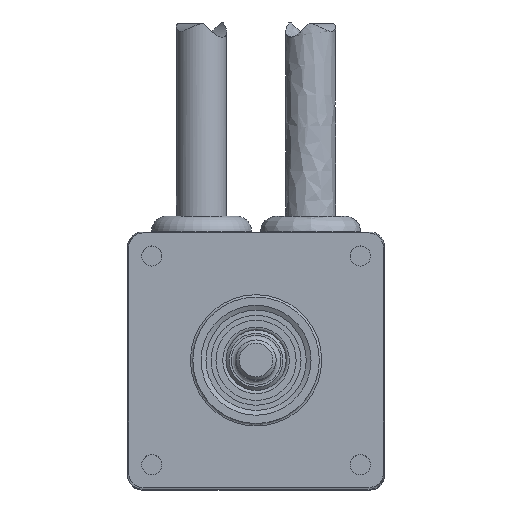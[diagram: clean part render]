
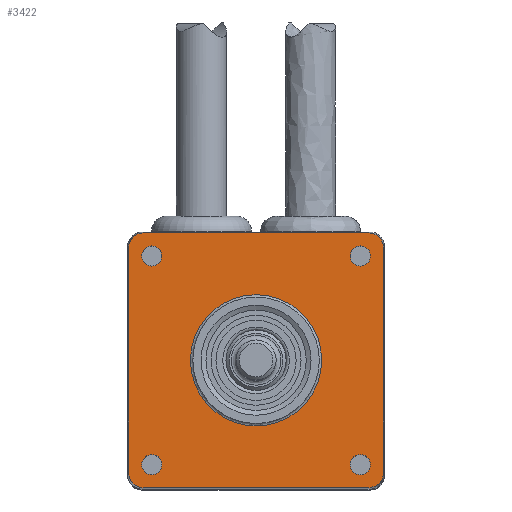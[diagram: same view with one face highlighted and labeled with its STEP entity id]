
A CAD part, top view. The second image highlights one B-rep face of the part: STEP entity #3422.
In plain terms, the highlighted planar face has unit normal (0, 0, 1).
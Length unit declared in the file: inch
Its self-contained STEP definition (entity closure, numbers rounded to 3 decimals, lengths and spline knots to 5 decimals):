
#3164=CARTESIAN_POINT('',(-0.5875,-0.65,0.37));
#3165=VERTEX_POINT('',#3164);
#3166=CARTESIAN_POINT('',(-0.65,-0.65,0.37));
#3167=DIRECTION('',(0.0,0.0,-1.0));
#3168=DIRECTION('',(-1.0,0.0,0.0));
#3169=AXIS2_PLACEMENT_3D('',#3166,#3167,#3168);
#3170=CIRCLE('',#3169,0.0625);
#3171=EDGE_CURVE('',#3165,#3165,#3170,.T.);
#3205=CARTESIAN_POINT('',(0.7125,0.65,0.37));
#3206=VERTEX_POINT('',#3205);
#3207=CARTESIAN_POINT('',(0.65,0.65,0.37));
#3208=DIRECTION('',(0.0,0.0,-1.0));
#3209=DIRECTION('',(-1.0,0.0,0.0));
#3210=AXIS2_PLACEMENT_3D('',#3207,#3208,#3209);
#3211=CIRCLE('',#3210,0.0625);
#3212=EDGE_CURVE('',#3206,#3206,#3211,.T.);
#3246=CARTESIAN_POINT('',(0.7125,-0.65,0.37));
#3247=VERTEX_POINT('',#3246);
#3248=CARTESIAN_POINT('',(0.65,-0.65,0.37));
#3249=DIRECTION('',(0.0,0.0,-1.0));
#3250=DIRECTION('',(-1.0,0.0,0.0));
#3251=AXIS2_PLACEMENT_3D('',#3248,#3249,#3250);
#3252=CIRCLE('',#3251,0.0625);
#3253=EDGE_CURVE('',#3247,#3247,#3252,.T.);
#3287=CARTESIAN_POINT('',(-0.5875,0.65,0.37));
#3288=VERTEX_POINT('',#3287);
#3289=CARTESIAN_POINT('',(-0.65,0.65,0.37));
#3290=DIRECTION('',(0.0,0.0,-1.0));
#3291=DIRECTION('',(-1.0,0.0,0.0));
#3292=AXIS2_PLACEMENT_3D('',#3289,#3290,#3291);
#3293=CIRCLE('',#3292,0.0625);
#3294=EDGE_CURVE('',#3288,#3288,#3293,.T.);
#3307=CARTESIAN_POINT('',(-0.70356,-0.79354,0.37));
#3308=VERTEX_POINT('',#3307);
#3309=CARTESIAN_POINT('',(-0.79354,-0.70356,0.37));
#3310=VERTEX_POINT('',#3309);
#3311=CARTESIAN_POINT('',(-0.70353,-0.70353,0.37));
#3312=DIRECTION('',(0.0,0.0,-1.));
#3313=DIRECTION('',(-0.707,-0.707,0.0));
#3314=AXIS2_PLACEMENT_3D('',#3311,#3312,#3313);
#3315=ELLIPSE('',#3314,0.09003,0.09);
#3316=EDGE_CURVE('',#3308,#3310,#3315,.T.);
#3334=CARTESIAN_POINT('',(0.,0.0,0.37));
#3335=DIRECTION('',(0.0,0.0,1.0));
#3336=DIRECTION('',(1.0,0.0,0.0));
#3337=AXIS2_PLACEMENT_3D('',#3334,#3335,#3336);
#3338=PLANE('',#3337);
#3339=ORIENTED_EDGE('',*,*,#3316,.F.);
#3340=CARTESIAN_POINT('',(0.70356,-0.79354,0.37));
#3341=VERTEX_POINT('',#3340);
#3342=CARTESIAN_POINT('',(0.70356,-0.79354,0.37));
#3343=DIRECTION('',(-1.0,0.0,0.0));
#3344=VECTOR('',#3343,1.40711);
#3345=LINE('',#3342,#3344);
#3346=EDGE_CURVE('',#3341,#3308,#3345,.T.);
#3347=ORIENTED_EDGE('',*,*,#3346,.F.);
#3348=CARTESIAN_POINT('',(0.79354,-0.70356,0.37));
#3349=VERTEX_POINT('',#3348);
#3350=CARTESIAN_POINT('',(0.70353,-0.70353,0.37));
#3351=DIRECTION('',(0.0,0.0,-1.));
#3352=DIRECTION('',(0.707,-0.707,0.0));
#3353=AXIS2_PLACEMENT_3D('',#3350,#3351,#3352);
#3354=ELLIPSE('',#3353,0.09003,0.09);
#3355=EDGE_CURVE('',#3349,#3341,#3354,.T.);
#3356=ORIENTED_EDGE('',*,*,#3355,.F.);
#3357=CARTESIAN_POINT('',(0.79354,0.70356,0.37));
#3358=VERTEX_POINT('',#3357);
#3359=CARTESIAN_POINT('',(0.79354,0.70356,0.37));
#3360=DIRECTION('',(0.0,-1.0,0.0));
#3361=VECTOR('',#3360,1.40711);
#3362=LINE('',#3359,#3361);
#3363=EDGE_CURVE('',#3358,#3349,#3362,.T.);
#3364=ORIENTED_EDGE('',*,*,#3363,.F.);
#3365=CARTESIAN_POINT('',(0.70356,0.79354,0.37));
#3366=VERTEX_POINT('',#3365);
#3367=CARTESIAN_POINT('',(0.70353,0.70353,0.37));
#3368=DIRECTION('',(0.0,0.0,-1.));
#3369=DIRECTION('',(0.707,0.707,0.0));
#3370=AXIS2_PLACEMENT_3D('',#3367,#3368,#3369);
#3371=ELLIPSE('',#3370,0.09003,0.09);
#3372=EDGE_CURVE('',#3366,#3358,#3371,.T.);
#3373=ORIENTED_EDGE('',*,*,#3372,.F.);
#3374=CARTESIAN_POINT('',(-0.70356,0.79354,0.37));
#3375=VERTEX_POINT('',#3374);
#3376=CARTESIAN_POINT('',(-0.70356,0.79354,0.37));
#3377=DIRECTION('',(1.0,0.0,0.0));
#3378=VECTOR('',#3377,1.40711);
#3379=LINE('',#3376,#3378);
#3380=EDGE_CURVE('',#3375,#3366,#3379,.T.);
#3381=ORIENTED_EDGE('',*,*,#3380,.F.);
#3382=CARTESIAN_POINT('',(-0.79354,0.70356,0.37));
#3383=VERTEX_POINT('',#3382);
#3384=CARTESIAN_POINT('',(-0.70353,0.70353,0.37));
#3385=DIRECTION('',(0.0,0.0,-1.));
#3386=DIRECTION('',(-0.707,0.707,0.0));
#3387=AXIS2_PLACEMENT_3D('',#3384,#3385,#3386);
#3388=ELLIPSE('',#3387,0.09003,0.09);
#3389=EDGE_CURVE('',#3383,#3375,#3388,.T.);
#3390=ORIENTED_EDGE('',*,*,#3389,.F.);
#3391=CARTESIAN_POINT('',(-0.79354,-0.70356,0.37));
#3392=DIRECTION('',(0.0,1.0,0.0));
#3393=VECTOR('',#3392,1.40711);
#3394=LINE('',#3391,#3393);
#3395=EDGE_CURVE('',#3310,#3383,#3394,.T.);
#3396=ORIENTED_EDGE('',*,*,#3395,.F.);
#3397=EDGE_LOOP('',(#3339,#3347,#3356,#3364,#3373,#3381,#3390,#3396));
#3398=FACE_OUTER_BOUND('',#3397,.T.);
#3399=ORIENTED_EDGE('',*,*,#3171,.T.);
#3400=EDGE_LOOP('',(#3399));
#3401=FACE_BOUND('',#3400,.T.);
#3402=ORIENTED_EDGE('',*,*,#3212,.T.);
#3403=EDGE_LOOP('',(#3402));
#3404=FACE_BOUND('',#3403,.T.);
#3405=ORIENTED_EDGE('',*,*,#3253,.T.);
#3406=EDGE_LOOP('',(#3405));
#3407=FACE_BOUND('',#3406,.T.);
#3408=ORIENTED_EDGE('',*,*,#3294,.T.);
#3409=EDGE_LOOP('',(#3408));
#3410=FACE_BOUND('',#3409,.T.);
#3411=CARTESIAN_POINT('',(0.409,0.,0.37));
#3412=VERTEX_POINT('',#3411);
#3413=CARTESIAN_POINT('',(0.0,0.0,0.37));
#3414=DIRECTION('',(0.0,0.0,1.0));
#3415=DIRECTION('',(-1.0,0.0,0.0));
#3416=AXIS2_PLACEMENT_3D('',#3413,#3414,#3415);
#3417=CIRCLE('',#3416,0.409);
#3418=EDGE_CURVE('',#3412,#3412,#3417,.T.);
#3419=ORIENTED_EDGE('',*,*,#3418,.F.);
#3420=EDGE_LOOP('',(#3419));
#3421=FACE_BOUND('',#3420,.T.);
#3422=ADVANCED_FACE('',(#3398,#3401,#3404,#3407,#3410,#3421),#3338,.T.);
